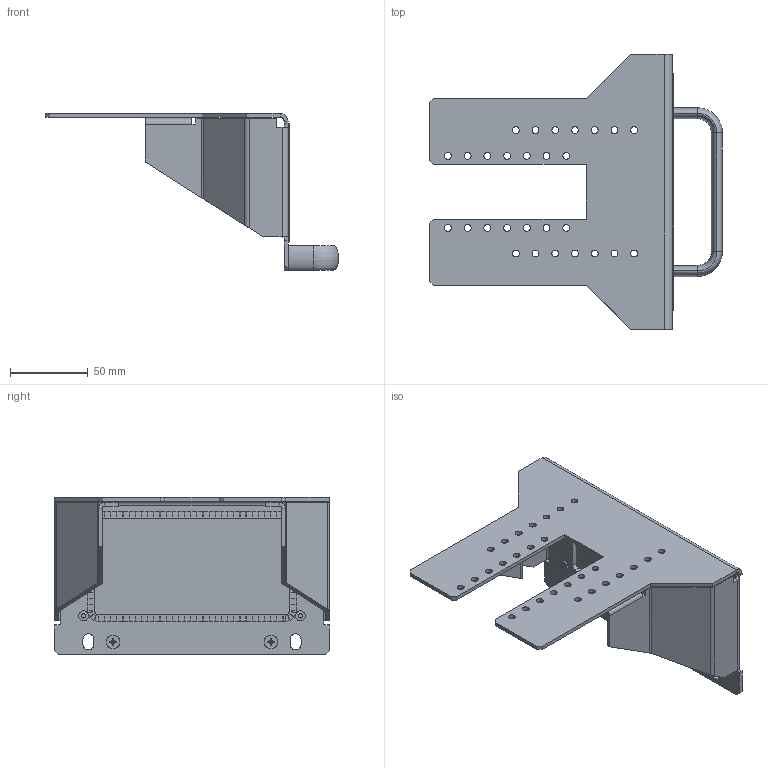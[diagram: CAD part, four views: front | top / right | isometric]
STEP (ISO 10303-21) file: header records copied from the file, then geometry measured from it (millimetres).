
FILE_DESCRIPTION((''),'2;1');
FILE_NAME('ASSY_RACK_MOUNT_RIGHT_PXIE-1078_ASM','2011-11-15T',('talbott'),(''),'PRO/ENGINEER BY PARAMETRIC TECHNOLOGY CORPORATION, 2010230','PRO/ENGINEER BY PARAMETRIC TECHNOLOGY CORPORATION, 2010230','');
FILE_SCHEMA(('CONFIG_CONTROL_DESIGN'));
Length unit declared in the file: inch
Products named in the file (8): BRACKET_RIGHT_RCK_MNT_PXIE-1078; CLS-440-3; HANDLE_OVAL_5-8X9-32X1-28X4; FLHUC_PHIL_832X0375_SS; RACK_MOUNT_PANEL_FILL_PXIE-1078; FLHUC_PHIL_440X0250_SS_NYLPATCH; GROMMET_WIRE_PXIE-1078_RACK_MNT; ASSY_RACK_MOUNT_RIGHT_PXIE-1078_ASM
Assembly tree (14 placements, depth 2):
  ASSY_RACK_MOUNT_RIGHT_PXIE-1078_ASM
    BRACKET_RIGHT_RCK_MNT_PXIE-1078
    CLS-440-3  x4
    HANDLE_OVAL_5-8X9-32X1-28X4
    FLHUC_PHIL_832X0375_SS  x2
    RACK_MOUNT_PANEL_FILL_PXIE-1078
    FLHUC_PHIL_440X0250_SS_NYLPATCH  x4
    GROMMET_WIRE_PXIE-1078_RACK_MNT
Bounding box: 188.75 x 177.04 x 101.14 mm (x, y, z)
Volume: 126925.2 mm3; surface area: 122756.4 mm2
Topology: 14 solids, 14 shells, 1345 faces, 3769 edges, 2352 vertices
Faces by surface type: plane 980, cylinder 194, bspline 120, cone 40, extrusion 7, revolution 4
Entity records: 39406 total; most frequent: CARTESIAN_POINT 8090, ORIENTED_EDGE 6738, DIRECTION 5968, EDGE_CURVE 3369, VECTOR 2910, LINE 2903, VERTEX_POINT 2226, AXIS2_PLACEMENT_3D 1527
